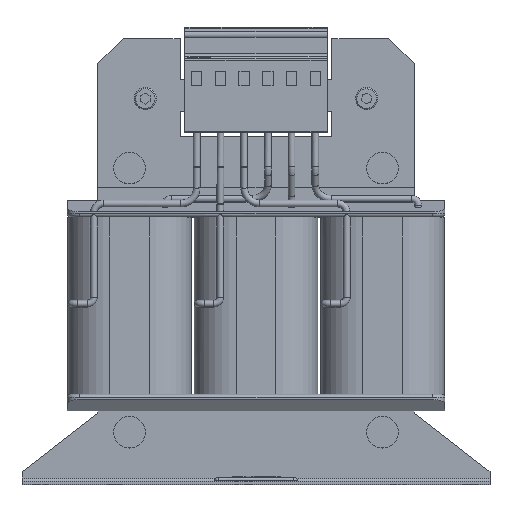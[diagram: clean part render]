
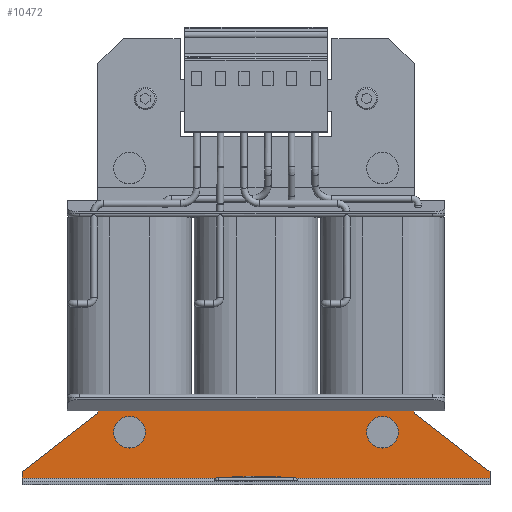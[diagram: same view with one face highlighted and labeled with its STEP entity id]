
A CAD part, top view. The second image highlights one B-rep face of the part: STEP entity #10472.
In plain terms, the highlighted planar face has unit normal (0, 0, 1).
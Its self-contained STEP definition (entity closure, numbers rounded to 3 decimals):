
#25 = VERTEX_POINT ( 'NONE', #2003 ) ;
#262 = CARTESIAN_POINT ( 'NONE',  ( -50., 22.5, 10.2 ) ) ;
#278 = EDGE_CURVE ( 'NONE', #5068, #5068, #4224, .T. ) ;
#487 = CARTESIAN_POINT ( 'NONE',  ( 40., 16.5, 10.2 ) ) ;
#705 = EDGE_CURVE ( 'NONE', #25, #10190, #1862, .T. ) ;
#818 = CARTESIAN_POINT ( 'NONE',  ( 50., 26.5, 10.2 ) ) ;
#1063 = VECTOR ( 'NONE', #6157, 1000. ) ;
#1270 = ORIENTED_EDGE ( 'NONE', *, *, #13586, .T. ) ;
#1422 = ORIENTED_EDGE ( 'NONE', *, *, #278, .F. ) ;
#1425 = ORIENTED_EDGE ( 'NONE', *, *, #13560, .T. ) ;
#1636 = LINE ( 'NONE', #12363, #8011 ) ;
#1707 = DIRECTION ( 'NONE',  ( 0., 1., 0. ) ) ;
#1862 = LINE ( 'NONE', #6156, #4926 ) ;
#1863 = CARTESIAN_POINT ( 'NONE',  ( -74., 4., 10.2 ) ) ;
#1904 = LINE ( 'NONE', #10388, #9351 ) ;
#1964 = PLANE ( 'NONE',  #10368 ) ;
#2003 = CARTESIAN_POINT ( 'NONE',  ( -74., 2., 10.2 ) ) ;
#2700 = EDGE_CURVE ( 'NONE', #10190, #3893, #1636, .T. ) ;
#2769 = ORIENTED_EDGE ( 'NONE', *, *, #11855, .F. ) ;
#3493 = DIRECTION ( 'NONE',  ( 0., 0., 1. ) ) ;
#3893 = VERTEX_POINT ( 'NONE', #10738 ) ;
#4224 = CIRCLE ( 'NONE', #6693, 5. ) ;
#4238 = DIRECTION ( 'NONE',  ( 1., 0., 0. ) ) ;
#4297 = FACE_BOUND ( 'NONE', #12195, .T. ) ;
#4347 = VERTEX_POINT ( 'NONE', #262 ) ;
#4356 = EDGE_LOOP ( 'NONE', ( #2769 ) ) ;
#4649 = CARTESIAN_POINT ( 'NONE',  ( 74., 2., 10.2 ) ) ;
#4709 = VECTOR ( 'NONE', #6286, 1000. ) ;
#4926 = VECTOR ( 'NONE', #10411, 1000. ) ;
#5068 = VERTEX_POINT ( 'NONE', #10370 ) ;
#5098 = CARTESIAN_POINT ( 'NONE',  ( -74., 0., 10.2 ) ) ;
#5235 = DIRECTION ( 'NONE',  ( 0., 0., 1. ) ) ;
#5355 = FACE_OUTER_BOUND ( 'NONE', #7651, .T. ) ;
#5387 = LINE ( 'NONE', #10823, #9248 ) ;
#5470 = VERTEX_POINT ( 'NONE', #6792 ) ;
#5652 = CARTESIAN_POINT ( 'NONE',  ( -74., 4., 10.2 ) ) ;
#5874 = VERTEX_POINT ( 'NONE', #5652 ) ;
#6071 = CARTESIAN_POINT ( 'NONE',  ( 0., 23.25, 10.2 ) ) ;
#6095 = LINE ( 'NONE', #1863, #1063 ) ;
#6119 = CARTESIAN_POINT ( 'NONE',  ( 50., 23.25, 10.2 ) ) ;
#6156 = CARTESIAN_POINT ( 'NONE',  ( 74., 2., 10.2 ) ) ;
#6157 = DIRECTION ( 'NONE',  ( -0.792, -0.611, 0. ) ) ;
#6286 = DIRECTION ( 'NONE',  ( 0., -1., 0. ) ) ;
#6326 = DIRECTION ( 'NONE',  ( 0., 0., 1. ) ) ;
#6437 = VECTOR ( 'NONE', #8223, 1000. ) ;
#6454 = ORIENTED_EDGE ( 'NONE', *, *, #9547, .T. ) ;
#6616 = ORIENTED_EDGE ( 'NONE', *, *, #13305, .T. ) ;
#6693 = AXIS2_PLACEMENT_3D ( 'NONE', #8376, #5235, #4238 ) ;
#6781 = VERTEX_POINT ( 'NONE', #8823 ) ;
#6792 = CARTESIAN_POINT ( 'NONE',  ( 50., 22.5, 10.2 ) ) ;
#7034 = LINE ( 'NONE', #6071, #6437 ) ;
#7651 = EDGE_LOOP ( 'NONE', ( #12710, #1425, #1270, #6616, #8171, #13737, #10666, #6454 ) ) ;
#8011 = VECTOR ( 'NONE', #1707, 1000. ) ;
#8171 = ORIENTED_EDGE ( 'NONE', *, *, #12443, .T. ) ;
#8223 = DIRECTION ( 'NONE',  ( -1., 0., 0. ) ) ;
#8376 = CARTESIAN_POINT ( 'NONE',  ( -40., 16.5, 10.2 ) ) ;
#8442 = LINE ( 'NONE', #5098, #4709 ) ;
#8715 = VECTOR ( 'NONE', #13641, 1000. ) ;
#8823 = CARTESIAN_POINT ( 'NONE',  ( 45., 16.5, 10.2 ) ) ;
#8926 = CIRCLE ( 'NONE', #10258, 5. ) ;
#9248 = VECTOR ( 'NONE', #10678, 1000. ) ;
#9351 = VECTOR ( 'NONE', #13593, 1000. ) ;
#9547 = EDGE_CURVE ( 'NONE', #3893, #5470, #5387, .T. ) ;
#9616 = DIRECTION ( 'NONE',  ( 1., 0., 0. ) ) ;
#9675 = CARTESIAN_POINT ( 'NONE',  ( 0., 0., 10.2 ) ) ;
#10190 = VERTEX_POINT ( 'NONE', #4649 ) ;
#10258 = AXIS2_PLACEMENT_3D ( 'NONE', #487, #3493, #11056 ) ;
#10368 = AXIS2_PLACEMENT_3D ( 'NONE', #9675, #6326, #9616 ) ;
#10370 = CARTESIAN_POINT ( 'NONE',  ( -35., 16.5, 10.2 ) ) ;
#10388 = CARTESIAN_POINT ( 'NONE',  ( -50., 26.5, 10.2 ) ) ;
#10411 = DIRECTION ( 'NONE',  ( 1., 0., 0. ) ) ;
#10422 = LINE ( 'NONE', #818, #8715 ) ;
#10472 = ADVANCED_FACE ( 'NONE', ( #12761, #4297, #5355 ), #1964, .T. ) ;
#10666 = ORIENTED_EDGE ( 'NONE', *, *, #2700, .T. ) ;
#10678 = DIRECTION ( 'NONE',  ( -0.792, 0.611, 0. ) ) ;
#10738 = CARTESIAN_POINT ( 'NONE',  ( 74., 4., 10.2 ) ) ;
#10823 = CARTESIAN_POINT ( 'NONE',  ( 50., 22.5, 10.2 ) ) ;
#11037 = EDGE_CURVE ( 'NONE', #5470, #11502, #10422, .T. ) ;
#11056 = DIRECTION ( 'NONE',  ( 1., 0., 0. ) ) ;
#11502 = VERTEX_POINT ( 'NONE', #6119 ) ;
#11855 = EDGE_CURVE ( 'NONE', #6781, #6781, #8926, .T. ) ;
#12195 = EDGE_LOOP ( 'NONE', ( #1422 ) ) ;
#12363 = CARTESIAN_POINT ( 'NONE',  ( 74., 4., 10.2 ) ) ;
#12443 = EDGE_CURVE ( 'NONE', #5874, #25, #8442, .T. ) ;
#12710 = ORIENTED_EDGE ( 'NONE', *, *, #11037, .T. ) ;
#12761 = FACE_BOUND ( 'NONE', #4356, .T. ) ;
#13305 = EDGE_CURVE ( 'NONE', #4347, #5874, #6095, .T. ) ;
#13391 = CARTESIAN_POINT ( 'NONE',  ( -50., 23.25, 10.2 ) ) ;
#13560 = EDGE_CURVE ( 'NONE', #11502, #13587, #7034, .T. ) ;
#13586 = EDGE_CURVE ( 'NONE', #13587, #4347, #1904, .T. ) ;
#13587 = VERTEX_POINT ( 'NONE', #13391 ) ;
#13593 = DIRECTION ( 'NONE',  ( 0., -1., 0. ) ) ;
#13641 = DIRECTION ( 'NONE',  ( 0., 1., 0. ) ) ;
#13737 = ORIENTED_EDGE ( 'NONE', *, *, #705, .T. ) ;
